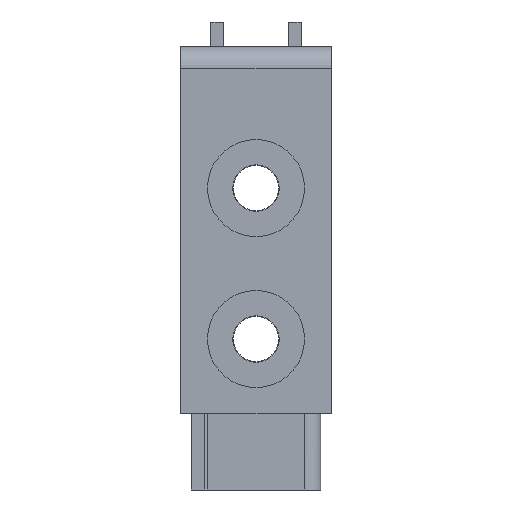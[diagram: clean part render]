
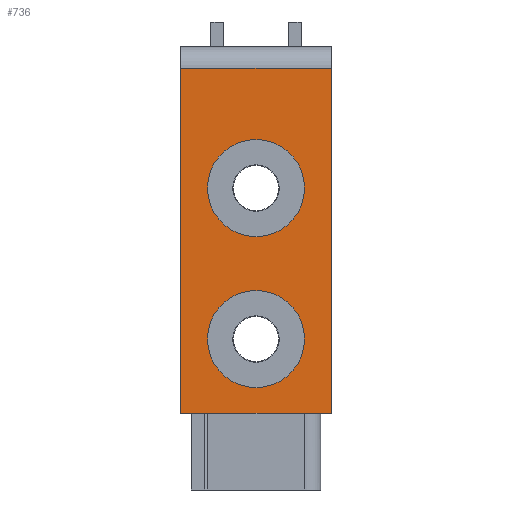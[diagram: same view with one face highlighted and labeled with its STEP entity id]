
A CAD part, front view. The second image highlights one B-rep face of the part: STEP entity #736.
In plain terms, the highlighted planar face has unit normal (0, -1, 0).
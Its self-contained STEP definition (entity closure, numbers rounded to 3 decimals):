
#3 = CARTESIAN_POINT ( 'NONE',  ( -7., -1.2, 32. ) ) ;
#4 = LINE ( 'NONE', #3, #40 ) ;
#13 = CIRCLE ( 'NONE', #35, 4.5 ) ;
#32 = DIRECTION ( 'NONE',  ( 0., 0., 1. ) ) ;
#33 = DIRECTION ( 'NONE',  ( 0., 1., 0. ) ) ;
#34 = CARTESIAN_POINT ( 'NONE',  ( 0., -1.2, 6.9 ) ) ;
#35 = AXIS2_PLACEMENT_3D ( 'NONE', #34, #33, #32 ) ;
#39 = DIRECTION ( 'NONE',  ( -1., 0., 0. ) ) ;
#40 = VECTOR ( 'NONE', #39, 1000. ) ;
#56 = DIRECTION ( 'NONE',  ( -1., 0., 0. ) ) ;
#57 = VECTOR ( 'NONE', #56, 1000. ) ;
#58 = CARTESIAN_POINT ( 'NONE',  ( -7., -1.2, 0. ) ) ;
#59 = FACE_BOUND ( 'NONE', #711, .T. ) ;
#60 = LINE ( 'NONE', #58, #57 ) ;
#61 = PLANE ( 'NONE',  #79 ) ;
#62 = FACE_BOUND ( 'NONE', #620, .T. ) ;
#65 = CARTESIAN_POINT ( 'NONE',  ( -7., -1.2, 34. ) ) ;
#79 = AXIS2_PLACEMENT_3D ( 'NONE', #65, #112, #111 ) ;
#80 = FACE_OUTER_BOUND ( 'NONE', #733, .T. ) ;
#97 = DIRECTION ( 'NONE',  ( 0., 0., 1. ) ) ;
#98 = DIRECTION ( 'NONE',  ( 0., 1., 0. ) ) ;
#99 = CARTESIAN_POINT ( 'NONE',  ( 0., -1.2, 20.9 ) ) ;
#100 = AXIS2_PLACEMENT_3D ( 'NONE', #99, #98, #97 ) ;
#110 = CIRCLE ( 'NONE', #100, 4.5 ) ;
#111 = DIRECTION ( 'NONE',  ( 0., 0., 1. ) ) ;
#112 = DIRECTION ( 'NONE',  ( 0., 1., 0. ) ) ;
#144 = DIRECTION ( 'NONE',  ( 0., 0., 1. ) ) ;
#145 = VECTOR ( 'NONE', #144, 1000. ) ;
#146 = CARTESIAN_POINT ( 'NONE',  ( -7., -1.2, 0. ) ) ;
#147 = LINE ( 'NONE', #146, #145 ) ;
#319 = EDGE_CURVE ( 'NONE', #389, #364, #1151, .T. ) ;
#336 = VERTEX_POINT ( 'NONE', #1147 ) ;
#337 = VERTEX_POINT ( 'NONE', #1138 ) ;
#364 = VERTEX_POINT ( 'NONE', #1344 ) ;
#389 = VERTEX_POINT ( 'NONE', #1415 ) ;
#413 = VERTEX_POINT ( 'NONE', #1539 ) ;
#431 = EDGE_CURVE ( 'NONE', #413, #498, #1615, .T. ) ;
#494 = VERTEX_POINT ( 'NONE', #1480 ) ;
#496 = EDGE_CURVE ( 'NONE', #497, #494, #1398, .T. ) ;
#497 = VERTEX_POINT ( 'NONE', #1397 ) ;
#498 = VERTEX_POINT ( 'NONE', #1473 ) ;
#575 = ORIENTED_EDGE ( 'NONE', *, *, #713, .T. ) ;
#620 = EDGE_LOOP ( 'NONE', ( #734, #714 ) ) ;
#703 = ORIENTED_EDGE ( 'NONE', *, *, #496, .T. ) ;
#704 = ORIENTED_EDGE ( 'NONE', *, *, #744, .T. ) ;
#706 = ORIENTED_EDGE ( 'NONE', *, *, #319, .F. ) ;
#711 = EDGE_LOOP ( 'NONE', ( #703, #704 ) ) ;
#713 = EDGE_CURVE ( 'NONE', #389, #337, #4, .T. ) ;
#714 = ORIENTED_EDGE ( 'NONE', *, *, #715, .T. ) ;
#715 = EDGE_CURVE ( 'NONE', #498, #413, #13, .T. ) ;
#732 = EDGE_CURVE ( 'NONE', #364, #336, #60, .T. ) ;
#733 = EDGE_LOOP ( 'NONE', ( #706, #575, #813, #811 ) ) ;
#734 = ORIENTED_EDGE ( 'NONE', *, *, #431, .T. ) ;
#736 = ADVANCED_FACE ( 'NONE', ( #62, #59, #80 ), #61, .F. ) ;
#744 = EDGE_CURVE ( 'NONE', #494, #497, #110, .T. ) ;
#748 = EDGE_CURVE ( 'NONE', #336, #337, #147, .T. ) ;
#811 = ORIENTED_EDGE ( 'NONE', *, *, #732, .F. ) ;
#813 = ORIENTED_EDGE ( 'NONE', *, *, #748, .F. ) ;
#1138 = CARTESIAN_POINT ( 'NONE',  ( -7., -1.2, 32. ) ) ;
#1147 = CARTESIAN_POINT ( 'NONE',  ( -7., -1.2, 0. ) ) ;
#1150 = DIRECTION ( 'NONE',  ( 0., 0., -1. ) ) ;
#1151 = LINE ( 'NONE', #1294, #1293 ) ;
#1293 = VECTOR ( 'NONE', #1150, 1000. ) ;
#1294 = CARTESIAN_POINT ( 'NONE',  ( 7., -1.2, 0. ) ) ;
#1344 = CARTESIAN_POINT ( 'NONE',  ( 7., -1.2, 0. ) ) ;
#1394 = DIRECTION ( 'NONE',  ( 0., 0., 1. ) ) ;
#1395 = DIRECTION ( 'NONE',  ( 0., 1., 0. ) ) ;
#1396 = CARTESIAN_POINT ( 'NONE',  ( 0., -1.2, 20.9 ) ) ;
#1397 = CARTESIAN_POINT ( 'NONE',  ( 0., -1.2, 25.4 ) ) ;
#1398 = CIRCLE ( 'NONE', #1474, 4.5 ) ;
#1415 = CARTESIAN_POINT ( 'NONE',  ( 7., -1.2, 32. ) ) ;
#1473 = CARTESIAN_POINT ( 'NONE',  ( 0., -1.2, 2.4 ) ) ;
#1474 = AXIS2_PLACEMENT_3D ( 'NONE', #1396, #1395, #1394 ) ;
#1480 = CARTESIAN_POINT ( 'NONE',  ( 0., -1.2, 16.4 ) ) ;
#1539 = CARTESIAN_POINT ( 'NONE',  ( 0., -1.2, 11.4 ) ) ;
#1611 = DIRECTION ( 'NONE',  ( 0., 0., 1. ) ) ;
#1612 = DIRECTION ( 'NONE',  ( 0., 1., 0. ) ) ;
#1613 = CARTESIAN_POINT ( 'NONE',  ( 0., -1.2, 6.9 ) ) ;
#1614 = AXIS2_PLACEMENT_3D ( 'NONE', #1613, #1612, #1611 ) ;
#1615 = CIRCLE ( 'NONE', #1614, 4.5 ) ;
